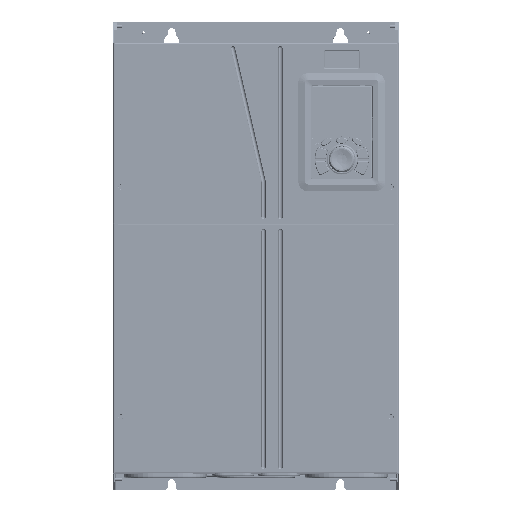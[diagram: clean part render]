
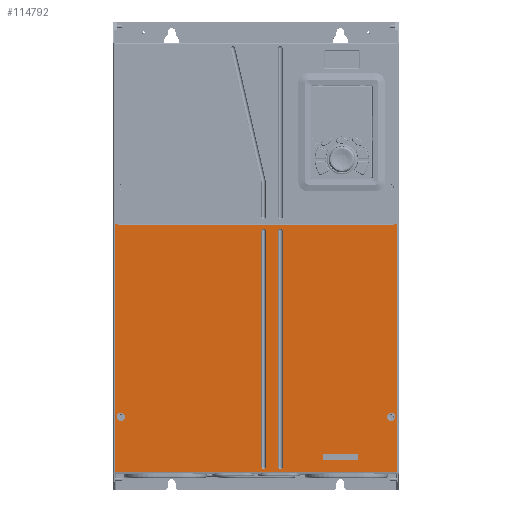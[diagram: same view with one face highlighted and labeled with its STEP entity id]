
A CAD part, top view. The second image highlights one B-rep face of the part: STEP entity #114792.
In plain terms, the highlighted planar face has unit normal (0, 0, 1).
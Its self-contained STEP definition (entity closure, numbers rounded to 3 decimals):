
#114756 = EDGE_CURVE('',#114757,#114759,#114761,.T.);
#114757 = VERTEX_POINT('',#114758);
#114758 = CARTESIAN_POINT('',(79.8,-124.4,1.2));
#114759 = VERTEX_POINT('',#114760);
#114760 = CARTESIAN_POINT('',(120.8,-124.4,1.2));
#114761 = LINE('',#114762,#114763);
#114762 = CARTESIAN_POINT('',(79.8,-124.4,1.2));
#114763 = VECTOR('',#114764,1.);
#114764 = DIRECTION('',(1.,0.,0.));
#114792 = ADVANCED_FACE('',(#114793,#114859,#114884,#114904,#114924,
    #114978),#115032,.T.);
#114793 = FACE_BOUND('',#114794,.F.);
#114794 = EDGE_LOOP('',(#114795,#114805,#114813,#114821,#114829,#114837,
    #114845,#114853));
#114795 = ORIENTED_EDGE('',*,*,#114796,.T.);
#114796 = EDGE_CURVE('',#114797,#114799,#114801,.T.);
#114797 = VERTEX_POINT('',#114798);
#114798 = CARTESIAN_POINT('',(-163.,146.7,1.2));
#114799 = VERTEX_POINT('',#114800);
#114800 = CARTESIAN_POINT('',(163.,146.7,1.2));
#114801 = LINE('',#114802,#114803);
#114802 = CARTESIAN_POINT('',(-163.,146.7,1.2));
#114803 = VECTOR('',#114804,1.);
#114804 = DIRECTION('',(1.,0.,0.));
#114805 = ORIENTED_EDGE('',*,*,#114806,.T.);
#114806 = EDGE_CURVE('',#114799,#114807,#114809,.T.);
#114807 = VERTEX_POINT('',#114808);
#114808 = CARTESIAN_POINT('',(163.,147.9,1.2));
#114809 = LINE('',#114810,#114811);
#114810 = CARTESIAN_POINT('',(163.,146.7,1.2));
#114811 = VECTOR('',#114812,1.);
#114812 = DIRECTION('',(0.,1.,0.));
#114813 = ORIENTED_EDGE('',*,*,#114814,.F.);
#114814 = EDGE_CURVE('',#114815,#114807,#114817,.T.);
#114815 = VERTEX_POINT('',#114816);
#114816 = CARTESIAN_POINT('',(167.3,147.9,1.2));
#114817 = LINE('',#114818,#114819);
#114818 = CARTESIAN_POINT('',(167.3,147.9,1.2));
#114819 = VECTOR('',#114820,1.);
#114820 = DIRECTION('',(-1.,0.,0.));
#114821 = ORIENTED_EDGE('',*,*,#114822,.T.);
#114822 = EDGE_CURVE('',#114815,#114823,#114825,.T.);
#114823 = VERTEX_POINT('',#114824);
#114824 = CARTESIAN_POINT('',(167.3,-146.2,1.2));
#114825 = LINE('',#114826,#114827);
#114826 = CARTESIAN_POINT('',(167.3,147.9,1.2));
#114827 = VECTOR('',#114828,1.);
#114828 = DIRECTION('',(0.,-1.,0.));
#114829 = ORIENTED_EDGE('',*,*,#114830,.T.);
#114830 = EDGE_CURVE('',#114823,#114831,#114833,.T.);
#114831 = VERTEX_POINT('',#114832);
#114832 = CARTESIAN_POINT('',(-167.3,-146.2,1.2));
#114833 = LINE('',#114834,#114835);
#114834 = CARTESIAN_POINT('',(167.3,-146.2,1.2));
#114835 = VECTOR('',#114836,1.);
#114836 = DIRECTION('',(-1.,0.,0.));
#114837 = ORIENTED_EDGE('',*,*,#114838,.T.);
#114838 = EDGE_CURVE('',#114831,#114839,#114841,.T.);
#114839 = VERTEX_POINT('',#114840);
#114840 = CARTESIAN_POINT('',(-167.3,147.9,1.2));
#114841 = LINE('',#114842,#114843);
#114842 = CARTESIAN_POINT('',(-167.3,-146.2,1.2));
#114843 = VECTOR('',#114844,1.);
#114844 = DIRECTION('',(0.,1.,0.));
#114845 = ORIENTED_EDGE('',*,*,#114846,.F.);
#114846 = EDGE_CURVE('',#114847,#114839,#114849,.T.);
#114847 = VERTEX_POINT('',#114848);
#114848 = CARTESIAN_POINT('',(-163.,147.9,1.2));
#114849 = LINE('',#114850,#114851);
#114850 = CARTESIAN_POINT('',(-163.,147.9,1.2));
#114851 = VECTOR('',#114852,1.);
#114852 = DIRECTION('',(-1.,0.,0.));
#114853 = ORIENTED_EDGE('',*,*,#114854,.F.);
#114854 = EDGE_CURVE('',#114797,#114847,#114855,.T.);
#114855 = LINE('',#114856,#114857);
#114856 = CARTESIAN_POINT('',(-163.,146.7,1.2));
#114857 = VECTOR('',#114858,1.);
#114858 = DIRECTION('',(0.,1.,0.));
#114859 = FACE_BOUND('',#114860,.F.);
#114860 = EDGE_LOOP('',(#114861,#114869,#114877,#114883));
#114861 = ORIENTED_EDGE('',*,*,#114862,.F.);
#114862 = EDGE_CURVE('',#114863,#114757,#114865,.T.);
#114863 = VERTEX_POINT('',#114864);
#114864 = CARTESIAN_POINT('',(79.8,-131.4,1.2));
#114865 = LINE('',#114866,#114867);
#114866 = CARTESIAN_POINT('',(79.8,-131.4,1.2));
#114867 = VECTOR('',#114868,1.);
#114868 = DIRECTION('',(0.,1.,0.));
#114869 = ORIENTED_EDGE('',*,*,#114870,.F.);
#114870 = EDGE_CURVE('',#114871,#114863,#114873,.T.);
#114871 = VERTEX_POINT('',#114872);
#114872 = CARTESIAN_POINT('',(120.8,-131.4,1.2));
#114873 = LINE('',#114874,#114875);
#114874 = CARTESIAN_POINT('',(120.8,-131.4,1.2));
#114875 = VECTOR('',#114876,1.);
#114876 = DIRECTION('',(-1.,0.,0.));
#114877 = ORIENTED_EDGE('',*,*,#114878,.F.);
#114878 = EDGE_CURVE('',#114759,#114871,#114879,.T.);
#114879 = LINE('',#114880,#114881);
#114880 = CARTESIAN_POINT('',(120.8,-124.4,1.2));
#114881 = VECTOR('',#114882,1.);
#114882 = DIRECTION('',(0.,-1.,0.));
#114883 = ORIENTED_EDGE('',*,*,#114756,.F.);
#114884 = FACE_BOUND('',#114885,.F.);
#114885 = EDGE_LOOP('',(#114886,#114897));
#114886 = ORIENTED_EDGE('',*,*,#114887,.T.);
#114887 = EDGE_CURVE('',#114888,#114890,#114892,.T.);
#114888 = VERTEX_POINT('',#114889);
#114889 = CARTESIAN_POINT('',(160.,-84.65,1.2));
#114890 = VERTEX_POINT('',#114891);
#114891 = CARTESIAN_POINT('',(160.,-77.15,1.2));
#114892 = CIRCLE('',#114893,3.75);
#114893 = AXIS2_PLACEMENT_3D('',#114894,#114895,#114896);
#114894 = CARTESIAN_POINT('',(160.,-80.9,1.2));
#114895 = DIRECTION('',(0.,0.,1.));
#114896 = DIRECTION('',(0.,-1.,0.));
#114897 = ORIENTED_EDGE('',*,*,#114898,.T.);
#114898 = EDGE_CURVE('',#114890,#114888,#114899,.T.);
#114899 = CIRCLE('',#114900,3.75);
#114900 = AXIS2_PLACEMENT_3D('',#114901,#114902,#114903);
#114901 = CARTESIAN_POINT('',(160.,-80.9,1.2));
#114902 = DIRECTION('',(0.,-0.,1.));
#114903 = DIRECTION('',(0.,1.,0.));
#114904 = FACE_BOUND('',#114905,.F.);
#114905 = EDGE_LOOP('',(#114906,#114917));
#114906 = ORIENTED_EDGE('',*,*,#114907,.T.);
#114907 = EDGE_CURVE('',#114908,#114910,#114912,.T.);
#114908 = VERTEX_POINT('',#114909);
#114909 = CARTESIAN_POINT('',(-160.,-84.65,1.2));
#114910 = VERTEX_POINT('',#114911);
#114911 = CARTESIAN_POINT('',(-160.,-77.15,1.2));
#114912 = CIRCLE('',#114913,3.75);
#114913 = AXIS2_PLACEMENT_3D('',#114914,#114915,#114916);
#114914 = CARTESIAN_POINT('',(-160.,-80.9,1.2));
#114915 = DIRECTION('',(0.,0.,1.));
#114916 = DIRECTION('',(0.,-1.,0.));
#114917 = ORIENTED_EDGE('',*,*,#114918,.T.);
#114918 = EDGE_CURVE('',#114910,#114908,#114919,.T.);
#114919 = CIRCLE('',#114920,3.75);
#114920 = AXIS2_PLACEMENT_3D('',#114921,#114922,#114923);
#114921 = CARTESIAN_POINT('',(-160.,-80.9,1.2));
#114922 = DIRECTION('',(0.,-0.,1.));
#114923 = DIRECTION('',(0.,1.,0.));
#114924 = FACE_BOUND('',#114925,.F.);
#114925 = EDGE_LOOP('',(#114926,#114936,#114945,#114954,#114962,#114971)
  );
#114926 = ORIENTED_EDGE('',*,*,#114927,.T.);
#114927 = EDGE_CURVE('',#114928,#114930,#114932,.T.);
#114928 = VERTEX_POINT('',#114929);
#114929 = CARTESIAN_POINT('',(31.5,-140.4,1.2));
#114930 = VERTEX_POINT('',#114931);
#114931 = CARTESIAN_POINT('',(31.5,139.6,1.2));
#114932 = LINE('',#114933,#114934);
#114933 = CARTESIAN_POINT('',(31.5,-140.4,1.2));
#114934 = VECTOR('',#114935,1.);
#114935 = DIRECTION('',(0.,1.,0.));
#114936 = ORIENTED_EDGE('',*,*,#114937,.T.);
#114937 = EDGE_CURVE('',#114930,#114938,#114940,.T.);
#114938 = VERTEX_POINT('',#114939);
#114939 = CARTESIAN_POINT('',(29.,142.1,1.2));
#114940 = CIRCLE('',#114941,2.5);
#114941 = AXIS2_PLACEMENT_3D('',#114942,#114943,#114944);
#114942 = CARTESIAN_POINT('',(29.,139.6,1.2));
#114943 = DIRECTION('',(0.,0.,1.));
#114944 = DIRECTION('',(1.,0.,-0.));
#114945 = ORIENTED_EDGE('',*,*,#114946,.F.);
#114946 = EDGE_CURVE('',#114947,#114938,#114949,.T.);
#114947 = VERTEX_POINT('',#114948);
#114948 = CARTESIAN_POINT('',(26.5,139.6,1.2));
#114949 = CIRCLE('',#114950,2.5);
#114950 = AXIS2_PLACEMENT_3D('',#114951,#114952,#114953);
#114951 = CARTESIAN_POINT('',(29.,139.6,1.2));
#114952 = DIRECTION('',(0.,0.,-1.));
#114953 = DIRECTION('',(-1.,0.,0.));
#114954 = ORIENTED_EDGE('',*,*,#114955,.F.);
#114955 = EDGE_CURVE('',#114956,#114947,#114958,.T.);
#114956 = VERTEX_POINT('',#114957);
#114957 = CARTESIAN_POINT('',(26.5,-140.4,1.2));
#114958 = LINE('',#114959,#114960);
#114959 = CARTESIAN_POINT('',(26.5,-140.4,1.2));
#114960 = VECTOR('',#114961,1.);
#114961 = DIRECTION('',(0.,1.,0.));
#114962 = ORIENTED_EDGE('',*,*,#114963,.T.);
#114963 = EDGE_CURVE('',#114956,#114964,#114966,.T.);
#114964 = VERTEX_POINT('',#114965);
#114965 = CARTESIAN_POINT('',(29.,-142.9,1.2));
#114966 = CIRCLE('',#114967,2.5);
#114967 = AXIS2_PLACEMENT_3D('',#114968,#114969,#114970);
#114968 = CARTESIAN_POINT('',(29.,-140.4,1.2));
#114969 = DIRECTION('',(0.,0.,1.));
#114970 = DIRECTION('',(-1.,0.,0.));
#114971 = ORIENTED_EDGE('',*,*,#114972,.F.);
#114972 = EDGE_CURVE('',#114928,#114964,#114973,.T.);
#114973 = CIRCLE('',#114974,2.5);
#114974 = AXIS2_PLACEMENT_3D('',#114975,#114976,#114977);
#114975 = CARTESIAN_POINT('',(29.,-140.4,1.2));
#114976 = DIRECTION('',(0.,0.,-1.));
#114977 = DIRECTION('',(1.,0.,0.));
#114978 = FACE_BOUND('',#114979,.F.);
#114979 = EDGE_LOOP('',(#114980,#114990,#114999,#115008,#115016,#115025)
  );
#114980 = ORIENTED_EDGE('',*,*,#114981,.T.);
#114981 = EDGE_CURVE('',#114982,#114984,#114986,.T.);
#114982 = VERTEX_POINT('',#114983);
#114983 = CARTESIAN_POINT('',(11.5,-140.4,1.2));
#114984 = VERTEX_POINT('',#114985);
#114985 = CARTESIAN_POINT('',(11.5,139.6,1.2));
#114986 = LINE('',#114987,#114988);
#114987 = CARTESIAN_POINT('',(11.5,-140.4,1.2));
#114988 = VECTOR('',#114989,1.);
#114989 = DIRECTION('',(0.,1.,0.));
#114990 = ORIENTED_EDGE('',*,*,#114991,.T.);
#114991 = EDGE_CURVE('',#114984,#114992,#114994,.T.);
#114992 = VERTEX_POINT('',#114993);
#114993 = CARTESIAN_POINT('',(9.,142.1,1.2));
#114994 = CIRCLE('',#114995,2.5);
#114995 = AXIS2_PLACEMENT_3D('',#114996,#114997,#114998);
#114996 = CARTESIAN_POINT('',(9.,139.6,1.2));
#114997 = DIRECTION('',(0.,0.,1.));
#114998 = DIRECTION('',(1.,0.,-0.));
#114999 = ORIENTED_EDGE('',*,*,#115000,.F.);
#115000 = EDGE_CURVE('',#115001,#114992,#115003,.T.);
#115001 = VERTEX_POINT('',#115002);
#115002 = CARTESIAN_POINT('',(6.5,139.6,1.2));
#115003 = CIRCLE('',#115004,2.5);
#115004 = AXIS2_PLACEMENT_3D('',#115005,#115006,#115007);
#115005 = CARTESIAN_POINT('',(9.,139.6,1.2));
#115006 = DIRECTION('',(0.,0.,-1.));
#115007 = DIRECTION('',(-1.,0.,0.));
#115008 = ORIENTED_EDGE('',*,*,#115009,.F.);
#115009 = EDGE_CURVE('',#115010,#115001,#115012,.T.);
#115010 = VERTEX_POINT('',#115011);
#115011 = CARTESIAN_POINT('',(6.5,-140.4,1.2));
#115012 = LINE('',#115013,#115014);
#115013 = CARTESIAN_POINT('',(6.5,-140.4,1.2));
#115014 = VECTOR('',#115015,1.);
#115015 = DIRECTION('',(0.,1.,0.));
#115016 = ORIENTED_EDGE('',*,*,#115017,.T.);
#115017 = EDGE_CURVE('',#115010,#115018,#115020,.T.);
#115018 = VERTEX_POINT('',#115019);
#115019 = CARTESIAN_POINT('',(9.,-142.9,1.2));
#115020 = CIRCLE('',#115021,2.5);
#115021 = AXIS2_PLACEMENT_3D('',#115022,#115023,#115024);
#115022 = CARTESIAN_POINT('',(9.,-140.4,1.2));
#115023 = DIRECTION('',(0.,0.,1.));
#115024 = DIRECTION('',(-1.,0.,0.));
#115025 = ORIENTED_EDGE('',*,*,#115026,.F.);
#115026 = EDGE_CURVE('',#114982,#115018,#115027,.T.);
#115027 = CIRCLE('',#115028,2.5);
#115028 = AXIS2_PLACEMENT_3D('',#115029,#115030,#115031);
#115029 = CARTESIAN_POINT('',(9.,-140.4,1.2));
#115030 = DIRECTION('',(0.,0.,-1.));
#115031 = DIRECTION('',(1.,0.,0.));
#115032 = PLANE('',#115033);
#115033 = AXIS2_PLACEMENT_3D('',#115034,#115035,#115036);
#115034 = CARTESIAN_POINT('',(0.,0.,1.2));
#115035 = DIRECTION('',(0.,0.,1.));
#115036 = DIRECTION('',(1.,0.,-0.));
